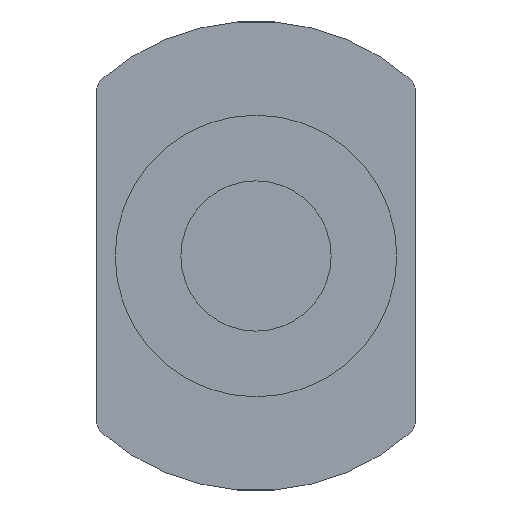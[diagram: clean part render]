
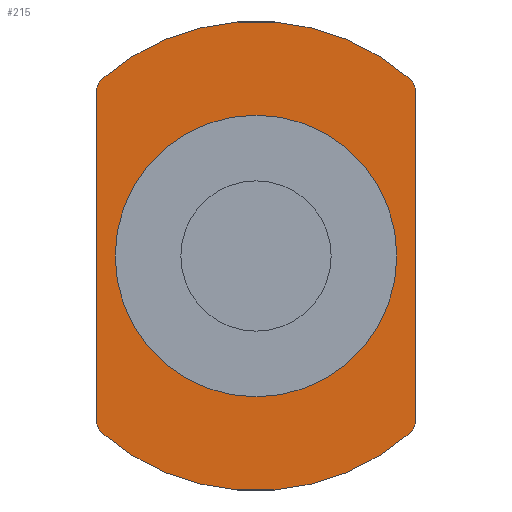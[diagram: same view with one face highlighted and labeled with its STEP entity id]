
A CAD part, left-side view. The second image highlights one B-rep face of the part: STEP entity #215.
In plain terms, the highlighted planar face has unit normal (-1, 0, 0).
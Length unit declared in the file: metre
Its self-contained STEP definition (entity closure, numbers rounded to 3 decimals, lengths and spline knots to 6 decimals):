
#15=PLANE('',#254);
#19=CIRCLE('',#235,0.001);
#21=CIRCLE('',#238,0.001);
#23=CIRCLE('',#242,0.001);
#24=CIRCLE('',#244,0.0125);
#27=CIRCLE('',#248,0.001);
#29=CIRCLE('',#253,0.0125);
#30=CIRCLE('',#255,0.0075);
#74=ORIENTED_EDGE('',*,*,#114,.T.);
#75=ORIENTED_EDGE('',*,*,#93,.T.);
#76=ORIENTED_EDGE('',*,*,#111,.F.);
#77=ORIENTED_EDGE('',*,*,#109,.T.);
#78=ORIENTED_EDGE('',*,*,#104,.T.);
#79=ORIENTED_EDGE('',*,*,#103,.T.);
#80=ORIENTED_EDGE('',*,*,#98,.T.);
#81=ORIENTED_EDGE('',*,*,#97,.T.);
#82=ORIENTED_EDGE('',*,*,#113,.T.);
#93=EDGE_CURVE('',#118,#121,#19,.T.);
#97=EDGE_CURVE('',#122,#125,#21,.T.);
#98=EDGE_CURVE('',#126,#122,#142,.T.);
#103=EDGE_CURVE('',#128,#126,#23,.T.);
#104=EDGE_CURVE('',#130,#128,#24,.T.);
#109=EDGE_CURVE('',#132,#130,#27,.T.);
#111=EDGE_CURVE('',#132,#121,#149,.T.);
#113=EDGE_CURVE('',#125,#118,#29,.T.);
#114=EDGE_CURVE('',#134,#134,#30,.T.);
#118=VERTEX_POINT('',#340);
#121=VERTEX_POINT('',#345);
#122=VERTEX_POINT('',#349);
#125=VERTEX_POINT('',#354);
#126=VERTEX_POINT('',#358);
#128=VERTEX_POINT('',#364);
#130=VERTEX_POINT('',#370);
#132=VERTEX_POINT('',#376);
#134=VERTEX_POINT('',#389);
#142=LINE('',#357,#154);
#149=LINE('',#382,#161);
#154=VECTOR('',#283,1.);
#161=VECTOR('',#310,1.);
#171=EDGE_LOOP('',(#74));
#172=EDGE_LOOP('',(#75,#76,#77,#78,#79,#80,#81,#82));
#189=FACE_BOUND('',#171,.T.);
#190=FACE_BOUND('',#172,.T.);
#215=ADVANCED_FACE('',(#189,#190),#15,.T.);
#235=AXIS2_PLACEMENT_3D('',#346,#271,#272);
#238=AXIS2_PLACEMENT_3D('',#355,#279,#280);
#242=AXIS2_PLACEMENT_3D('',#367,#291,#292);
#244=AXIS2_PLACEMENT_3D('',#369,#295,#296);
#248=AXIS2_PLACEMENT_3D('',#379,#305,#306);
#253=AXIS2_PLACEMENT_3D('',#386,#317,#318);
#254=AXIS2_PLACEMENT_3D('',#387,#319,#320);
#255=AXIS2_PLACEMENT_3D('',#388,#321,#322);
#271=DIRECTION('',(-1.,0.,0.));
#272=DIRECTION('',(0.,0.652,0.758));
#279=DIRECTION('',(-1.,0.,0.));
#280=DIRECTION('',(0.,-1.,0.));
#283=DIRECTION('',(0.,0.,1.));
#291=DIRECTION('',(-1.,0.,0.));
#292=DIRECTION('',(0.,-0.652,-0.758));
#295=DIRECTION('',(-1.,0.,0.));
#296=DIRECTION('',(0.,0.652,-0.758));
#305=DIRECTION('',(-1.,0.,0.));
#306=DIRECTION('',(0.,1.,0.));
#310=DIRECTION('',(0.,0.,1.));
#317=DIRECTION('',(-1.,0.,0.));
#318=DIRECTION('',(0.,-0.652,0.758));
#319=DIRECTION('',(-1.,0.,0.));
#320=DIRECTION('',(0.,1.,0.));
#321=DIRECTION('',(1.,0.,0.));
#322=DIRECTION('',(0.,1.,0.));
#340=CARTESIAN_POINT('',(0.1505,-0.000848,-0.731024));
#345=CARTESIAN_POINT('',(0.1505,-0.0005,-0.731782));
#346=CARTESIAN_POINT('',(0.1505,-0.0015,-0.731782));
#349=CARTESIAN_POINT('',(0.1505,-0.0175,-0.731782));
#354=CARTESIAN_POINT('',(0.1505,-0.017152,-0.731024));
#355=CARTESIAN_POINT('',(0.1505,-0.0165,-0.731782));
#357=CARTESIAN_POINT('',(0.1505,-0.0175,-0.749218));
#358=CARTESIAN_POINT('',(0.1505,-0.0175,-0.749218));
#364=CARTESIAN_POINT('',(0.1505,-0.017152,-0.749976));
#367=CARTESIAN_POINT('',(0.1505,-0.0165,-0.749218));
#369=CARTESIAN_POINT('',(0.1505,-0.009,-0.7405));
#370=CARTESIAN_POINT('',(0.1505,-0.000848,-0.749976));
#376=CARTESIAN_POINT('',(0.1505,-0.0005,-0.749218));
#379=CARTESIAN_POINT('',(0.1505,-0.0015,-0.749218));
#382=CARTESIAN_POINT('',(0.1505,-0.0005,-0.749218));
#386=CARTESIAN_POINT('',(0.1505,-0.009,-0.7405));
#387=CARTESIAN_POINT('',(0.1505,-0.009,-0.7405));
#388=CARTESIAN_POINT('',(0.1505,-0.009,-0.7405));
#389=CARTESIAN_POINT('',(0.1505,-0.0015,-0.7405));
